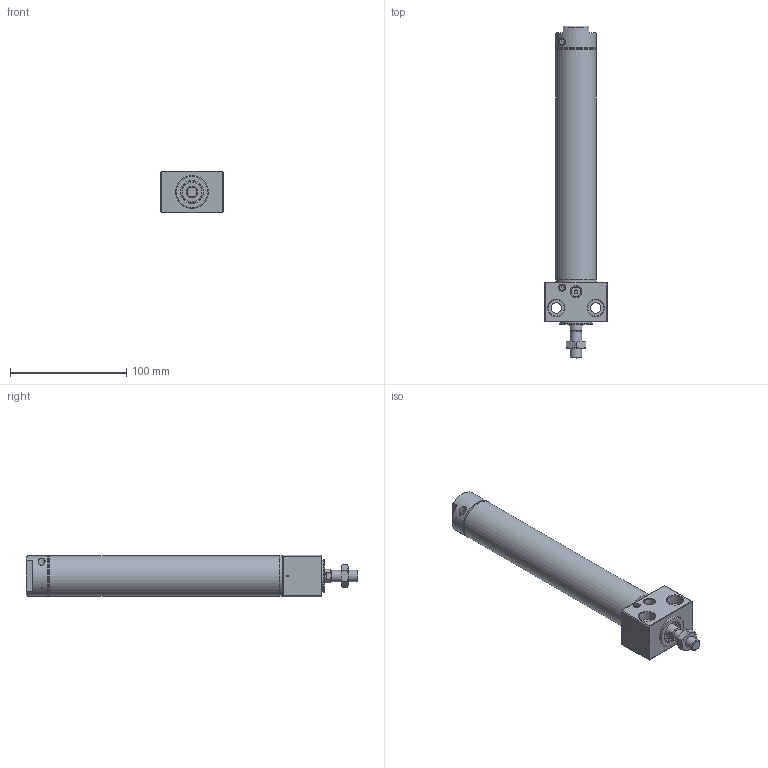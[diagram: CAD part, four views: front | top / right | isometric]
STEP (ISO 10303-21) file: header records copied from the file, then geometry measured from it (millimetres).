
FILE_DESCRIPTION((''),'2;1');
FILE_NAME('I:\3D電子目錄\氣缸\DBS\DBS\DBS30x150-C.stp','2007-10-08T08:42:48',('Administrator'),(''),'Autodesk Inventor 2008','Autodesk Inventor 2008','');
FILE_SCHEMA(('AUTOMOTIVE_DESIGN { 1 0 10303 214 1 1 1 1 }'));
Length unit declared in the file: millimetre
Products named in the file (1): DBS30x150-C
Bounding box: 54 x 285.6 x 36 mm (x, y, z)
Volume: 142629.1 mm3; surface area: 68924 mm2
Topology: 8 solids, 8 shells, 207 faces, 423 edges, 258 vertices
Faces by surface type: plane 93, cone 50, cylinder 48, bspline 13, torus 3
Full cylindrical faces by diameter (mm): 1.2 x1, 1.9 x2, 3 x3, 3.3 x2, 4.6 x2, 5 x2, 6 x2, 6.5 x1, 8 x1, 9 x1, 10 x2, 12 x1, 12.5 x1, 14 x1, 16 x1, 17 x2, 20 x2, 21 x3, 24 x2, 28 x3, 28.5 x2, 30 x1, 32.2 x6, 35 x4
Entity records: 5397 total; most frequent: CARTESIAN_POINT 1440, DIRECTION 828, ORIENTED_EDGE 642, AXIS2_PLACEMENT_3D 364, EDGE_LOOP 349, EDGE_CURVE 321, VERTEX_POINT 246, FACE_OUTER_BOUND 207
